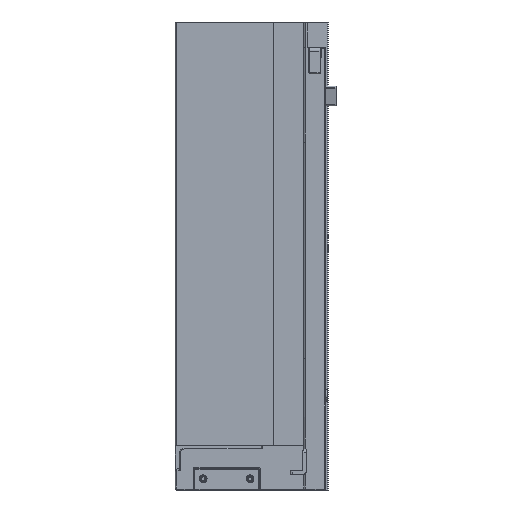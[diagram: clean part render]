
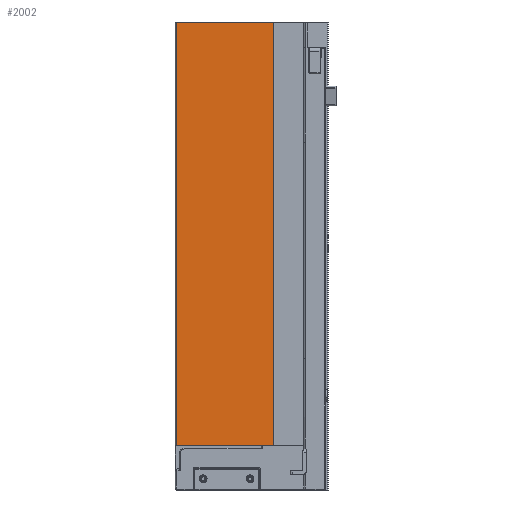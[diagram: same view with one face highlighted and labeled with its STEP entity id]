
A CAD part, left-side view. The second image highlights one B-rep face of the part: STEP entity #2002.
In plain terms, the highlighted planar face has unit normal (-1, 0, 0).
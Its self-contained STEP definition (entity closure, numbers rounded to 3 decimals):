
#62 = DIRECTION ( 'NONE',  ( 0., 1., 0. ) ) ;
#156 = DIRECTION ( 'NONE',  ( 0., 0., 1. ) ) ;
#200 = CARTESIAN_POINT ( 'NONE',  ( 5.7, 0., 0. ) ) ;
#357 = EDGE_CURVE ( 'NONE', #2026, #2607, #5719, .T. ) ;
#358 = EDGE_CURVE ( 'NONE', #2026, #1019, #5460, .T. ) ;
#376 = EDGE_CURVE ( 'NONE', #2607, #10761, #5163, .T. ) ;
#417 = CARTESIAN_POINT ( 'NONE',  ( 5.7, 0., 0. ) ) ;
#425 = EDGE_CURVE ( 'NONE', #1019, #10761, #4694, .T. ) ;
#1019 = VERTEX_POINT ( 'NONE', #7262 ) ;
#2002 = ADVANCED_FACE ( 'NONE', ( #10086 ), #7071, .T. ) ;
#2026 = VERTEX_POINT ( 'NONE', #6657 ) ;
#2607 = VERTEX_POINT ( 'NONE', #417 ) ;
#3772 = CARTESIAN_POINT ( 'NONE',  ( 5.7, 55.8, 0. ) ) ;
#4694 = LINE ( 'NONE', #11262, #4840 ) ;
#4840 = VECTOR ( 'NONE', #11226, 1000. ) ;
#5136 = VECTOR ( 'NONE', #10725, 1000. ) ;
#5163 = LINE ( 'NONE', #200, #5136 ) ;
#5272 = VECTOR ( 'NONE', #62, 1000. ) ;
#5311 = VECTOR ( 'NONE', #156, 1000. ) ;
#5460 = LINE ( 'NONE', #6183, #5272 ) ;
#5719 = LINE ( 'NONE', #6521, #5311 ) ;
#6183 = CARTESIAN_POINT ( 'NONE',  ( 5.7, 0., -243.5 ) ) ;
#6469 = ORIENTED_EDGE ( 'NONE', *, *, #357, .T. ) ;
#6481 = ORIENTED_EDGE ( 'NONE', *, *, #358, .F. ) ;
#6521 = CARTESIAN_POINT ( 'NONE',  ( 5.7, 0., -562.455 ) ) ;
#6657 = CARTESIAN_POINT ( 'NONE',  ( 5.7, 0., -243.5 ) ) ;
#6982 = DIRECTION ( 'NONE',  ( 0., 0., 1. ) ) ;
#6984 = DIRECTION ( 'NONE',  ( -1., 0., 0. ) ) ;
#6993 = CARTESIAN_POINT ( 'NONE',  ( 5.7, 0., -562.455 ) ) ;
#7041 = ORIENTED_EDGE ( 'NONE', *, *, #425, .F. ) ;
#7071 = PLANE ( 'NONE',  #8339 ) ;
#7092 = ORIENTED_EDGE ( 'NONE', *, *, #376, .T. ) ;
#7262 = CARTESIAN_POINT ( 'NONE',  ( 5.7, 55.8, -243.5 ) ) ;
#7793 = EDGE_LOOP ( 'NONE', ( #7092, #7041, #6481, #6469 ) ) ;
#8339 = AXIS2_PLACEMENT_3D ( 'NONE', #6993, #6984, #6982 ) ;
#10086 = FACE_OUTER_BOUND ( 'NONE', #7793, .T. ) ;
#10725 = DIRECTION ( 'NONE',  ( 0., 1., 0. ) ) ;
#10761 = VERTEX_POINT ( 'NONE', #3772 ) ;
#11226 = DIRECTION ( 'NONE',  ( 0., 0., 1. ) ) ;
#11262 = CARTESIAN_POINT ( 'NONE',  ( 5.7, 55.8, -562.455 ) ) ;
